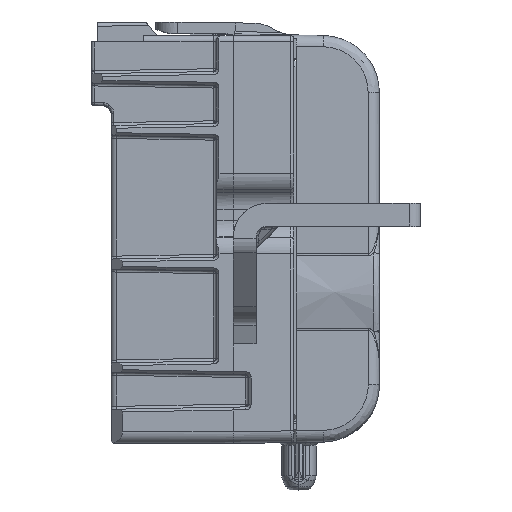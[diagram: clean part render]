
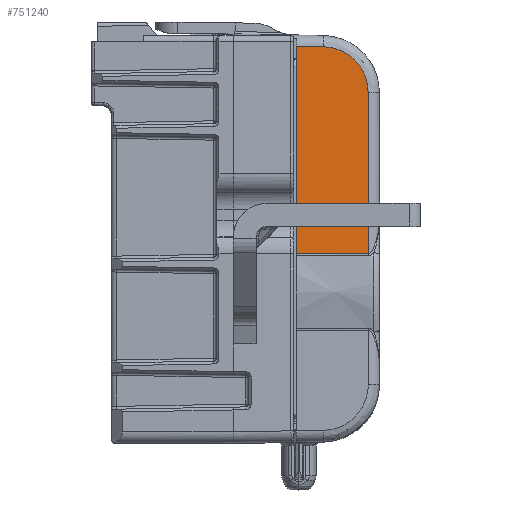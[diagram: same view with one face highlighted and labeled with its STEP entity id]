
A CAD part, top view. The second image highlights one B-rep face of the part: STEP entity #751240.
In plain terms, the highlighted planar face has unit normal (0.018, 0, 1) as drawn and (1, 0, -0.017) by its records, which use the part's own axes.
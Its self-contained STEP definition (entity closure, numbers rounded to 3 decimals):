
#716930=CARTESIAN_POINT('',(7.769,-13.696,
-12.275));
#716940=VERTEX_POINT('',#716930);
#721310=CARTESIAN_POINT('',(7.769,4.473,
-12.275));
#721320=VERTEX_POINT('',#721310);
#721350=CARTESIAN_POINT('',(7.769,-15.293,
-12.275));
#721360=DIRECTION('',(0.,-1.,0.));
#721370=VECTOR('',#721360,1.);
#721380=LINE('',#721350,#721370);
#721390=EDGE_CURVE('',#721320,#716940,#721380,.T.);
#735870=CARTESIAN_POINT('',(7.727,4.432,
-14.663));
#735880=VERTEX_POINT('',#735870);
#735910=CARTESIAN_POINT('',(7.956,4.66,
-1.568));
#735920=DIRECTION('',(0.017,0.017,
1.));
#735930=VECTOR('',#735920,1.);
#735940=LINE('',#735910,#735930);
#735950=EDGE_CURVE('',#735880,#721320,#735940,.T.);
#736660=CARTESIAN_POINT('',(7.659,0.432,
-18.593));
#736670=VERTEX_POINT('',#736660);
#736720=CARTESIAN_POINT('',(7.659,0.432,
-18.593));
#736730=CARTESIAN_POINT('',(7.659,0.474,
-18.593));
#736740=CARTESIAN_POINT('',(7.659,0.515,
-18.592));
#736750=CARTESIAN_POINT('',(7.659,1.097,
-18.574));
#736760=CARTESIAN_POINT('',(7.661,1.63,
-18.448));
#736770=CARTESIAN_POINT('',(7.669,2.539,
-18.024));
#736780=CARTESIAN_POINT('',(7.673,2.918,
-17.76));
#736790=CARTESIAN_POINT('',(7.679,3.245,
-17.437));
#736800=CARTESIAN_POINT('',(7.687,3.716,
-16.971));
#736810=CARTESIAN_POINT('',(7.697,4.065,
-16.395));
#736820=CARTESIAN_POINT('',(7.714,4.355,
-15.443));
#736830=CARTESIAN_POINT('',(7.719,4.412,
-15.117));
#736840=CARTESIAN_POINT('',(7.726,4.43,
-14.746));
#736850=CARTESIAN_POINT('',(7.726,4.431,
-14.705));
#736860=CARTESIAN_POINT('',(7.727,4.432,
-14.663));
#736870=B_SPLINE_CURVE_WITH_KNOTS('',3,(#736720,#736730,#736740,#736750,
#736760,#736770,#736780,#736790,#736800,#736810,#736820,#736830,#736840,
#736850,#736860),.UNSPECIFIED.,.F.,.F.,(4,2,2,3,2,2,4),(0.,
0.14,1.969,3.515,5.748,
6.864,7.006),.UNSPECIFIED.);
#736880=EDGE_CURVE('',#736670,#735880,#736870,.T.);
#750970=CARTESIAN_POINT('',(7.795,-15.293,
-10.775));
#750980=DIRECTION('',(1.,0.,
-0.017));
#750990=DIRECTION('',(0.,-1.,0.));
#751000=AXIS2_PLACEMENT_3D('',#750970,#750980,#750990);
#751010=PLANE('',#751000);
#751020=ORIENTED_EDGE('',*,*,#721390,.T.);
#751030=ORIENTED_EDGE('',*,*,#735950,.T.);
#751040=ORIENTED_EDGE('',*,*,#736880,.T.);
#751050=CARTESIAN_POINT('',(7.659,-15.293,
-18.593));
#751060=DIRECTION('',(0.,-1.,0.));
#751070=VECTOR('',#751060,1.);
#751080=LINE('',#751050,#751070);
#751090=CARTESIAN_POINT('',(7.659,-13.713,
-18.593));
#751100=VERTEX_POINT('',#751090);
#751110=EDGE_CURVE('',#736670,#751100,#751080,.T.);
#751120=ORIENTED_EDGE('',*,*,#751110,.F.);
#751130=CARTESIAN_POINT('',(7.778,-13.695,
-11.775));
#751140=CARTESIAN_POINT('',(7.756,-13.698,
-12.995));
#751150=CARTESIAN_POINT('',(7.735,-13.701,
-14.215));
#751160=CARTESIAN_POINT('',(7.695,-13.707,
-16.487));
#751170=CARTESIAN_POINT('',(7.677,-13.71,
-17.54));
#751180=CARTESIAN_POINT('',(7.659,-13.713,
-18.593));
#751190=B_SPLINE_CURVE_WITH_KNOTS('',3,(#751130,#751140,#751150,#751160,
#751170,#751180),.UNSPECIFIED.,.F.,.F.,(4,2,4),(23.574,
27.234,30.393),.UNSPECIFIED.);
#751200=EDGE_CURVE('',#716940,#751100,#751190,.T.);
#751210=ORIENTED_EDGE('',*,*,#751200,.T.);
#751220=EDGE_LOOP('',(#751210,#751120,#751040,#751030,#751020));
#751230=FACE_OUTER_BOUND('',#751220,.T.);
#751240=ADVANCED_FACE('',(#751230),#751010,.T.);
